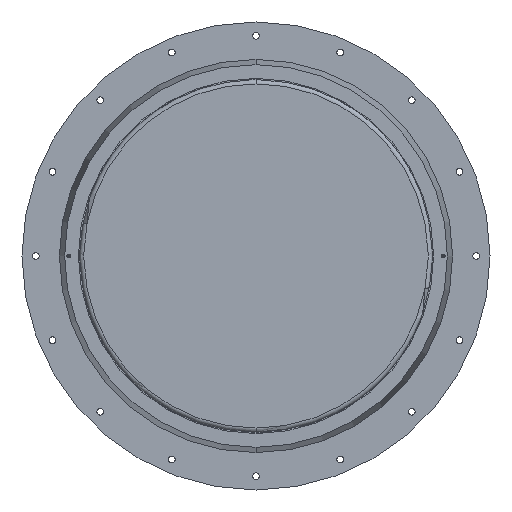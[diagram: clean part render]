
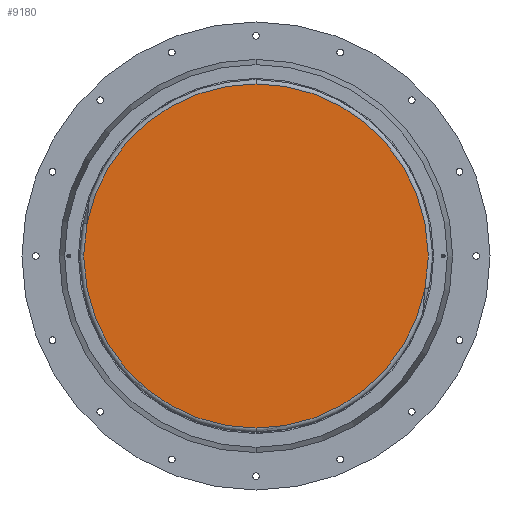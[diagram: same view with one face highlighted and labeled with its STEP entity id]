
A CAD part, front view. The second image highlights one B-rep face of the part: STEP entity #9180.
In plain terms, the highlighted planar face has unit normal (0, -1, 0).
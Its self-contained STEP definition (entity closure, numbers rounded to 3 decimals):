
#289 = VERTEX_POINT ( 'NONE', #119400 ) ;
#2369 = VERTEX_POINT ( 'NONE', #24149 ) ;
#3949 = CARTESIAN_POINT ( 'NONE',  ( -624.85, 0., 13.904 ) ) ;
#4579 = B_SPLINE_CURVE_WITH_KNOTS ( 'NONE', 3,
 ( #160493, #84475, #115185, #24281, #130466, #39478, #145850 ),
 .UNSPECIFIED., .F., .F.,
 ( 4, 3, 4 ),
 ( 0., 0., 0. ),
 .UNSPECIFIED. ) ;
#7785 = ORIENTED_EDGE ( 'NONE', *, *, #159399, .T. ) ;
#7892 = CARTESIAN_POINT ( 'NONE',  ( 624.845, 0., -13.908 ) ) ;
#9180 = ADVANCED_FACE ( 'NONE', ( #147540 ), #60990, .T. ) ;
#16769 = CARTESIAN_POINT ( 'NONE',  ( -625., 0., -13.785 ) ) ;
#16778 = CARTESIAN_POINT ( 'NONE',  ( -624.845, 0., -13.908 ) ) ;
#17463 = EDGE_CURVE ( 'NONE', #170580, #100977, #49844, .T. ) ;
#17976 = B_SPLINE_CURVE_WITH_KNOTS ( 'NONE', 3,
 ( #106677, #182608, #31022, #137274, #46238, #152621, #61360 ),
 .UNSPECIFIED., .F., .F.,
 ( 4, 3, 4 ),
 ( 0., 0., 0. ),
 .UNSPECIFIED. ) ;
#21188 = VECTOR ( 'NONE', #135587, 1000. ) ;
#22564 = CARTESIAN_POINT ( 'NONE',  ( -625., 0., -13.785 ) ) ;
#23816 = CARTESIAN_POINT ( 'NONE',  ( -625., 0., 13.91 ) ) ;
#24149 = CARTESIAN_POINT ( 'NONE',  ( -625., 0., 13.785 ) ) ;
#24281 = CARTESIAN_POINT ( 'NONE',  ( 624.86, 0., 13.896 ) ) ;
#25004 = ORIENTED_EDGE ( 'NONE', *, *, #99100, .F. ) ;
#27704 = CARTESIAN_POINT ( 'NONE',  ( 0., 0., 0. ) ) ;
#29172 = ORIENTED_EDGE ( 'NONE', *, *, #91784, .T. ) ;
#31022 = CARTESIAN_POINT ( 'NONE',  ( 624.855, 0., -13.9 ) ) ;
#33572 = EDGE_LOOP ( 'NONE', ( #25004, #29172, #134543, #48774, #183549, #84574, #43516, #185574, #56521, #166903, #7785, #106204 ) ) ;
#34403 = CARTESIAN_POINT ( 'NONE',  ( -624.86, 0., 13.896 ) ) ;
#34639 = B_SPLINE_CURVE_WITH_KNOTS ( 'NONE', 3,
 ( #186041, #3949, #125392, #34403, #140703, #49599, #156022 ),
 .UNSPECIFIED., .F., .F.,
 ( 4, 3, 4 ),
 ( 0., 0., 0. ),
 .UNSPECIFIED. ) ;
#36391 = EDGE_CURVE ( 'NONE', #96423, #37336, #159060, .T. ) ;
#37336 = VERTEX_POINT ( 'NONE', #16778 ) ;
#37594 = CARTESIAN_POINT ( 'NONE',  ( 0., 0., 0. ) ) ;
#37720 = CARTESIAN_POINT ( 'NONE',  ( -624.953, 0., -13.822 ) ) ;
#38738 = AXIS2_PLACEMENT_3D ( 'NONE', #85874, #192551, #101239 ) ;
#39478 = CARTESIAN_POINT ( 'NONE',  ( 624.85, 0., 13.904 ) ) ;
#40812 = EDGE_CURVE ( 'NONE', #187251, #37336, #169167, .T. ) ;
#42847 = DIRECTION ( 'NONE',  ( 0., 0., 1. ) ) ;
#43211 = CARTESIAN_POINT ( 'NONE',  ( 624.845, 0., 13.908 ) ) ;
#43516 = ORIENTED_EDGE ( 'NONE', *, *, #181291, .F. ) ;
#44305 = CARTESIAN_POINT ( 'NONE',  ( -624.845, 0., 13.908 ) ) ;
#44590 = CARTESIAN_POINT ( 'NONE',  ( -625., 0., 13.91 ) ) ;
#46238 = CARTESIAN_POINT ( 'NONE',  ( 624.907, 0., -13.859 ) ) ;
#46523 = CARTESIAN_POINT ( 'NONE',  ( -150., 0., 8. ) ) ;
#48774 = ORIENTED_EDGE ( 'NONE', *, *, #71953, .F. ) ;
#49599 = CARTESIAN_POINT ( 'NONE',  ( -624.953, 0., 13.822 ) ) ;
#49844 = LINE ( 'NONE', #76014, #85425 ) ;
#52783 = DIRECTION ( 'NONE',  ( 0., 0., 1. ) ) ;
#52917 = CARTESIAN_POINT ( 'NONE',  ( -624.86, 0., -13.896 ) ) ;
#56521 = ORIENTED_EDGE ( 'NONE', *, *, #17463, .T. ) ;
#56581 = EDGE_CURVE ( 'NONE', #64232, #2369, #142400, .T. ) ;
#56818 = DIRECTION ( 'NONE',  ( 0., 0., 1. ) ) ;
#60990 = PLANE ( 'NONE',  #120539 ) ;
#61360 = CARTESIAN_POINT ( 'NONE',  ( 625., 0., -13.785 ) ) ;
#61638 = DIRECTION ( 'NONE',  ( 0., 0., -1. ) ) ;
#64232 = VERTEX_POINT ( 'NONE', #103186 ) ;
#68141 = CARTESIAN_POINT ( 'NONE',  ( -624.85, 0., -13.904 ) ) ;
#69192 = CARTESIAN_POINT ( 'NONE',  ( 625., 0., -13.785 ) ) ;
#70185 = CARTESIAN_POINT ( 'NONE',  ( 625., 0., 13.785 ) ) ;
#71953 = EDGE_CURVE ( 'NONE', #187251, #64232, #128494, .T. ) ;
#72415 = DIRECTION ( 'NONE',  ( 0., 1., 0. ) ) ;
#73502 = CIRCLE ( 'NONE', #191603, 625. ) ;
#76014 = CARTESIAN_POINT ( 'NONE',  ( 625., 0., 13.91 ) ) ;
#79168 = EDGE_CURVE ( 'NONE', #289, #132032, #73502, .T. ) ;
#84475 = CARTESIAN_POINT ( 'NONE',  ( 624.953, 0., 13.822 ) ) ;
#84574 = ORIENTED_EDGE ( 'NONE', *, *, #36391, .F. ) ;
#85425 = VECTOR ( 'NONE', #182673, 1000. ) ;
#85874 = CARTESIAN_POINT ( 'NONE',  ( 0., 0., 0. ) ) ;
#87973 = VECTOR ( 'NONE', #175975, 1000. ) ;
#91761 = LINE ( 'NONE', #163355, #132312 ) ;
#91784 = EDGE_CURVE ( 'NONE', #187945, #2369, #34639, .T. ) ;
#96423 = VERTEX_POINT ( 'NONE', #103047 ) ;
#99100 = EDGE_CURVE ( 'NONE', #187945, #289, #114783, .T. ) ;
#100977 = VERTEX_POINT ( 'NONE', #150493 ) ;
#101239 = DIRECTION ( 'NONE',  ( 0., 0., 1. ) ) ;
#103047 = CARTESIAN_POINT ( 'NONE',  ( 0., 0., -625. ) ) ;
#103186 = CARTESIAN_POINT ( 'NONE',  ( -625., 0., 0. ) ) ;
#106204 = ORIENTED_EDGE ( 'NONE', *, *, #79168, .F. ) ;
#106677 = CARTESIAN_POINT ( 'NONE',  ( 624.845, 0., -13.908 ) ) ;
#114783 = CIRCLE ( 'NONE', #116043, 625. ) ;
#115185 = CARTESIAN_POINT ( 'NONE',  ( 624.907, 0., 13.859 ) ) ;
#116043 = AXIS2_PLACEMENT_3D ( 'NONE', #27704, #133834, #42847 ) ;
#119400 = CARTESIAN_POINT ( 'NONE',  ( 0., 0., 625. ) ) ;
#120539 = AXIS2_PLACEMENT_3D ( 'NONE', #46523, #152898, #61638 ) ;
#125392 = CARTESIAN_POINT ( 'NONE',  ( -624.855, 0., 13.9 ) ) ;
#127093 = EDGE_CURVE ( 'NONE', #144299, #170580, #17976, .T. ) ;
#128494 = LINE ( 'NONE', #23816, #87973 ) ;
#130466 = CARTESIAN_POINT ( 'NONE',  ( 624.855, 0., 13.9 ) ) ;
#132032 = VERTEX_POINT ( 'NONE', #43211 ) ;
#132312 = VECTOR ( 'NONE', #56818, 1000. ) ;
#133153 = EDGE_CURVE ( 'NONE', #100977, #180698, #91761, .T. ) ;
#133834 = DIRECTION ( 'NONE',  ( 0., 1., 0. ) ) ;
#134543 = ORIENTED_EDGE ( 'NONE', *, *, #56581, .F. ) ;
#135587 = DIRECTION ( 'NONE',  ( 0., 0., 1. ) ) ;
#137274 = CARTESIAN_POINT ( 'NONE',  ( 624.86, 0., -13.896 ) ) ;
#140699 = AXIS2_PLACEMENT_3D ( 'NONE', #163727, #72415, #179012 ) ;
#140703 = CARTESIAN_POINT ( 'NONE',  ( -624.907, 0., 13.859 ) ) ;
#142400 = LINE ( 'NONE', #44590, #21188 ) ;
#143963 = DIRECTION ( 'NONE',  ( 0., 1., 0. ) ) ;
#144094 = CARTESIAN_POINT ( 'NONE',  ( -624.907, 0., -13.859 ) ) ;
#144299 = VERTEX_POINT ( 'NONE', #7892 ) ;
#145850 = CARTESIAN_POINT ( 'NONE',  ( 624.845, 0., 13.908 ) ) ;
#147540 = FACE_OUTER_BOUND ( 'NONE', #33572, .T. ) ;
#150493 = CARTESIAN_POINT ( 'NONE',  ( 625., 0., 0. ) ) ;
#152621 = CARTESIAN_POINT ( 'NONE',  ( 624.953, 0., -13.822 ) ) ;
#152898 = DIRECTION ( 'NONE',  ( 0., -1., 0. ) ) ;
#154750 = CIRCLE ( 'NONE', #140699, 625. ) ;
#156022 = CARTESIAN_POINT ( 'NONE',  ( -625., 0., 13.785 ) ) ;
#159060 = CIRCLE ( 'NONE', #38738, 625. ) ;
#159380 = CARTESIAN_POINT ( 'NONE',  ( -624.855, 0., -13.9 ) ) ;
#159399 = EDGE_CURVE ( 'NONE', #180698, #132032, #4579, .T. ) ;
#160493 = CARTESIAN_POINT ( 'NONE',  ( 625., 0., 13.785 ) ) ;
#163355 = CARTESIAN_POINT ( 'NONE',  ( 625., 0., 13.91 ) ) ;
#163727 = CARTESIAN_POINT ( 'NONE',  ( 0., 0., 0. ) ) ;
#166903 = ORIENTED_EDGE ( 'NONE', *, *, #133153, .T. ) ;
#169167 = B_SPLINE_CURVE_WITH_KNOTS ( 'NONE', 3,
 ( #22564, #37720, #144094, #52917, #159380, #68141, #174725 ),
 .UNSPECIFIED., .F., .F.,
 ( 4, 3, 4 ),
 ( 0., 0., 0. ),
 .UNSPECIFIED. ) ;
#170580 = VERTEX_POINT ( 'NONE', #69192 ) ;
#174725 = CARTESIAN_POINT ( 'NONE',  ( -624.845, 0., -13.908 ) ) ;
#175975 = DIRECTION ( 'NONE',  ( 0., 0., 1. ) ) ;
#179012 = DIRECTION ( 'NONE',  ( 0., 0., 1. ) ) ;
#180698 = VERTEX_POINT ( 'NONE', #70185 ) ;
#181291 = EDGE_CURVE ( 'NONE', #144299, #96423, #154750, .T. ) ;
#182608 = CARTESIAN_POINT ( 'NONE',  ( 624.85, 0., -13.904 ) ) ;
#182673 = DIRECTION ( 'NONE',  ( 0., 0., 1. ) ) ;
#183549 = ORIENTED_EDGE ( 'NONE', *, *, #40812, .T. ) ;
#185574 = ORIENTED_EDGE ( 'NONE', *, *, #127093, .T. ) ;
#186041 = CARTESIAN_POINT ( 'NONE',  ( -624.845, 0., 13.908 ) ) ;
#187251 = VERTEX_POINT ( 'NONE', #16769 ) ;
#187945 = VERTEX_POINT ( 'NONE', #44305 ) ;
#191603 = AXIS2_PLACEMENT_3D ( 'NONE', #37594, #143963, #52783 ) ;
#192551 = DIRECTION ( 'NONE',  ( 0., 1., 0. ) ) ;
